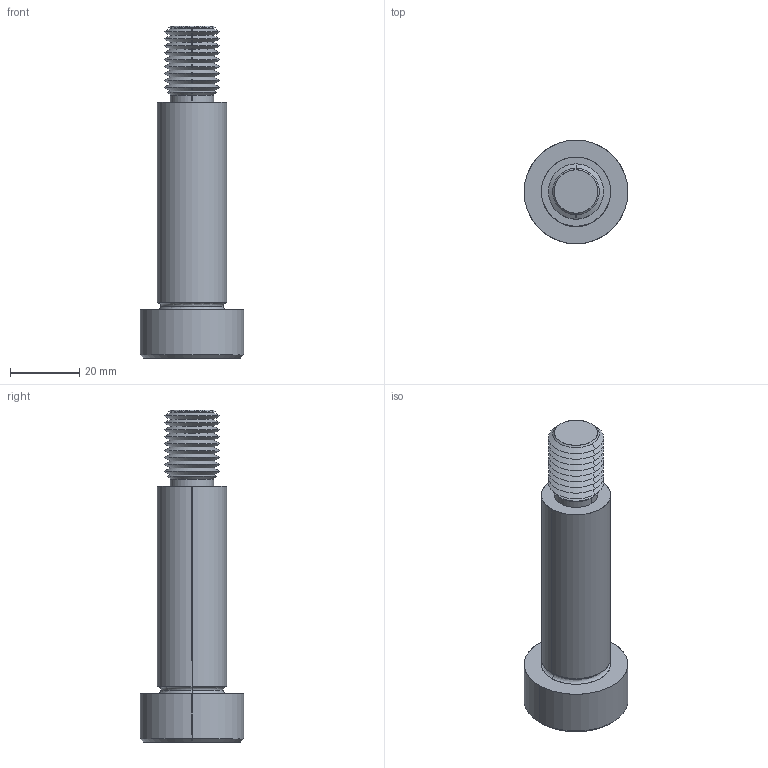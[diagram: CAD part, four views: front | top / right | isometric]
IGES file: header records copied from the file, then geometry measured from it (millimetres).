
Start section: SolidWorks IGES file using analytic representation for surfaces
Global section: file name: C:\Users\IanO\Documents\Temp Folder\GENERAL\SCREW REVISION\P0130_v2\P0130.T5_v2_20220106_IGES\P0130.200-060-T5.igs; native system: SolidWorks 2019; preprocessor: SolidWorks 2019; author: IanO; date: 220106.230116; units: millimetre
Bounding box: 30 x 30 x 96 mm (x, y, z)
Surface area: 8687.9 mm2 (no closed solid volume)
Topology: 0 solids, 0 shells, 80 faces, 692 edges, 690 vertices
Faces by surface type: revolution 60, bspline 20
